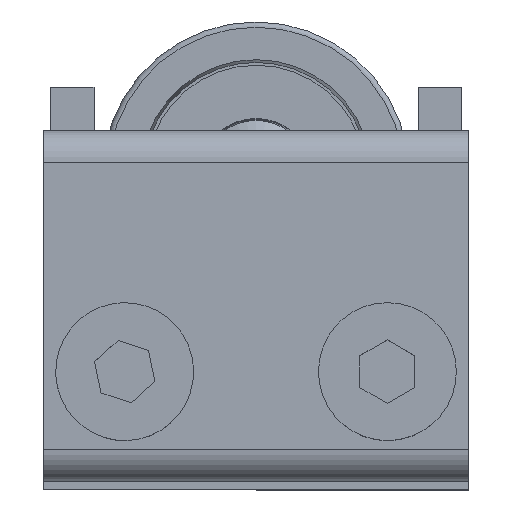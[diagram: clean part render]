
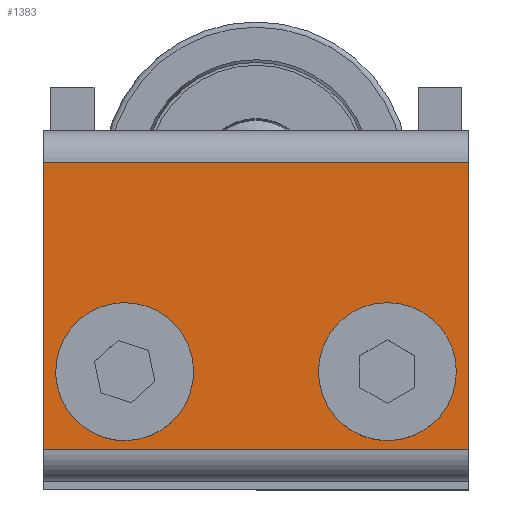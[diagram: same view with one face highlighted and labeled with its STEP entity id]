
A CAD part, top view. The second image highlights one B-rep face of the part: STEP entity #1383.
In plain terms, the highlighted planar face has unit normal (0, 0, 1) as drawn and (0, 0, -1) by its records, which use the part's own axes.
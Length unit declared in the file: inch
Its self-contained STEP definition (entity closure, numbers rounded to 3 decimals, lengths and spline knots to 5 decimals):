
#1043=DIRECTION('',(-1.,0.,0.));
#1044=VECTOR('',#1043,1.215);
#1045=CARTESIAN_POINT('',(0.6075,0.41,-0.18));
#1046=LINE('',#1045,#1044);
#1077=DIRECTION('',(0.,-1.,0.));
#1078=VECTOR('',#1077,0.82);
#1079=CARTESIAN_POINT('',(-0.6075,0.41,-0.18));
#1080=LINE('',#1079,#1078);
#1103=DIRECTION('',(0.,-1.,0.));
#1104=VECTOR('',#1103,0.82);
#1105=CARTESIAN_POINT('',(0.6075,0.41,-0.18));
#1106=LINE('',#1105,#1104);
#1107=CARTESIAN_POINT('',(0.375,-0.188,-0.18));
#1108=DIRECTION('',(0.,0.,1.));
#1109=DIRECTION('',(1.,0.,0.));
#1110=AXIS2_PLACEMENT_3D('',#1107,#1108,#1109);
#1112=CARTESIAN_POINT('',(0.375,-0.188,-0.18));
#1113=DIRECTION('',(0.,0.,1.));
#1114=DIRECTION('',(-1.,0.,0.));
#1115=AXIS2_PLACEMENT_3D('',#1112,#1113,#1114);
#1117=CARTESIAN_POINT('',(-0.375,-0.188,-0.18));
#1118=DIRECTION('',(0.,0.,1.));
#1119=DIRECTION('',(1.,0.,0.));
#1120=AXIS2_PLACEMENT_3D('',#1117,#1118,#1119);
#1122=CARTESIAN_POINT('',(-0.375,-0.188,-0.18));
#1123=DIRECTION('',(0.,0.,1.));
#1124=DIRECTION('',(-1.,0.,0.));
#1125=AXIS2_PLACEMENT_3D('',#1122,#1123,#1124);
#1127=DIRECTION('',(1.,0.,0.));
#1128=VECTOR('',#1127,1.215);
#1129=CARTESIAN_POINT('',(-0.6075,-0.41,-0.18));
#1130=LINE('',#1129,#1128);
#1234=CARTESIAN_POINT('',(0.6075,-0.41,-0.18));
#1236=VERTEX_POINT('',#1234);
#1247=CARTESIAN_POINT('',(0.5,-0.188,-0.18));
#1248=CARTESIAN_POINT('',(0.25,-0.188,-0.18));
#1249=VERTEX_POINT('',#1247);
#1250=VERTEX_POINT('',#1248);
#1251=CARTESIAN_POINT('',(-0.25,-0.188,-0.18));
#1252=CARTESIAN_POINT('',(-0.5,-0.188,-0.18));
#1253=VERTEX_POINT('',#1251);
#1254=VERTEX_POINT('',#1252);
#1255=CARTESIAN_POINT('',(-0.6075,-0.41,-0.18));
#1256=VERTEX_POINT('',#1255);
#1269=CARTESIAN_POINT('',(0.6075,0.41,-0.18));
#1270=CARTESIAN_POINT('',(-0.6075,0.41,-0.18));
#1271=VERTEX_POINT('',#1269);
#1272=VERTEX_POINT('',#1270);
#1359=CARTESIAN_POINT('',(0.6075,0.5,-0.18));
#1360=DIRECTION('',(0.,0.,1.));
#1361=DIRECTION('',(0.,-1.,0.));
#1362=AXIS2_PLACEMENT_3D('',#1359,#1360,#1361);
#1363=PLANE('',#1362);
#1364=ORIENTED_EDGE('',*,*,#1311,.F.);
#1365=ORIENTED_EDGE('',*,*,#1286,.T.);
#1366=ORIENTED_EDGE('',*,*,#1338,.T.);
#1368=ORIENTED_EDGE('',*,*,#1367,.T.);
#1369=EDGE_LOOP('',(#1364,#1365,#1366,#1368));
#1370=FACE_OUTER_BOUND('',#1369,.F.);
#1372=ORIENTED_EDGE('',*,*,#1371,.F.);
#1374=ORIENTED_EDGE('',*,*,#1373,.F.);
#1375=EDGE_LOOP('',(#1372,#1374));
#1376=FACE_BOUND('',#1375,.F.);
#1378=ORIENTED_EDGE('',*,*,#1377,.F.);
#1380=ORIENTED_EDGE('',*,*,#1379,.F.);
#1381=EDGE_LOOP('',(#1378,#1380));
#1382=FACE_BOUND('',#1381,.F.);
#1111=CIRCLE('',#1110,0.125);
#1116=CIRCLE('',#1115,0.125);
#1121=CIRCLE('',#1120,0.125);
#1126=CIRCLE('',#1125,0.125);
#1286=EDGE_CURVE('',#1271,#1272,#1046,.T.);
#1311=EDGE_CURVE('',#1271,#1236,#1106,.T.);
#1338=EDGE_CURVE('',#1272,#1256,#1080,.T.);
#1367=EDGE_CURVE('',#1256,#1236,#1130,.T.);
#1371=EDGE_CURVE('',#1249,#1250,#1111,.T.);
#1373=EDGE_CURVE('',#1250,#1249,#1116,.T.);
#1377=EDGE_CURVE('',#1253,#1254,#1121,.T.);
#1379=EDGE_CURVE('',#1254,#1253,#1126,.T.);
#1383=ADVANCED_FACE('',(#1370,#1376,#1382),#1363,.F.);
